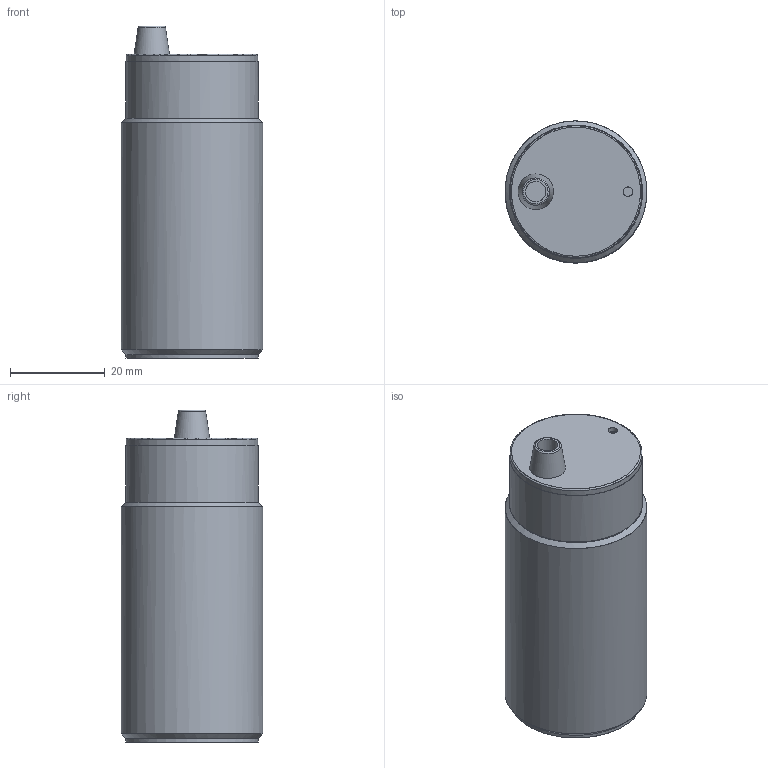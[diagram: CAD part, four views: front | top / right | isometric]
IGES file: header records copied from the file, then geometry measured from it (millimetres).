
Global section: file name: D:\dd\DSD-0304.igs; preprocessor: I-DEAS 3D IGES Translator 13; date: 20100121.124534; units: millimetre
Bounding box: 29.99 x 30 x 70.2 mm (x, y, z)
Surface area: 16134.6 mm2 (no closed solid volume)
Topology: 0 solids, 0 shells, 24 faces, 176 edges, 143 vertices
Faces by surface type: bspline 24
